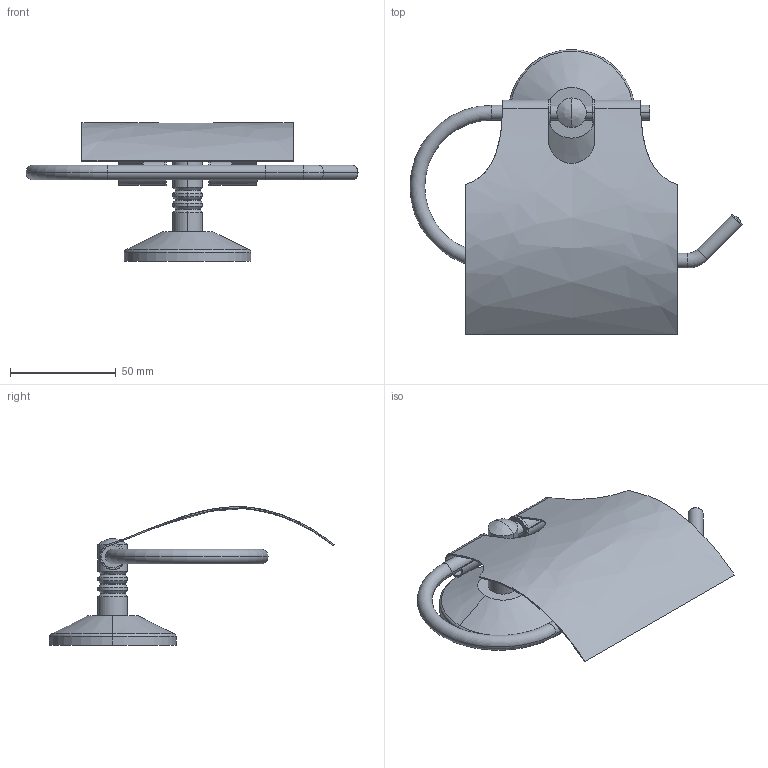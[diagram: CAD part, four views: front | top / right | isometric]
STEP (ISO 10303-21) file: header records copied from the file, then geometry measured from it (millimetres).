
FILE_DESCRIPTION (( 'STEP AP203' ), '1' );
FILE_NAME ('BJ11028.STEP', '2016-08-15T08:21:41', ( '' ), ( '' ), 'SwSTEP 2.0', 'SolidWorks 2016', '' );
FILE_SCHEMA (( 'CONFIG_CONTROL_DESIGN' ));
Length unit declared in the file: millimetre
Products named in the file (1): BJ11028
Bounding box: 157.16 x 135 x 65.63 mm (x, y, z)
Volume: 54442.2 mm3; surface area: 39679.7 mm2
Topology: 6 solids, 6 shells, 90 faces, 182 edges, 105 vertices
Faces by surface type: cylinder 39, plane 19, cone 16, torus 10, bspline 6
Entity records: 2957 total; most frequent: CARTESIAN_POINT 1016, DIRECTION 418, ORIENTED_EDGE 360, EDGE_CURVE 180, AXIS2_PLACEMENT_3D 175, VERTEX_POINT 105, EDGE_LOOP 93, CIRCLE 90
